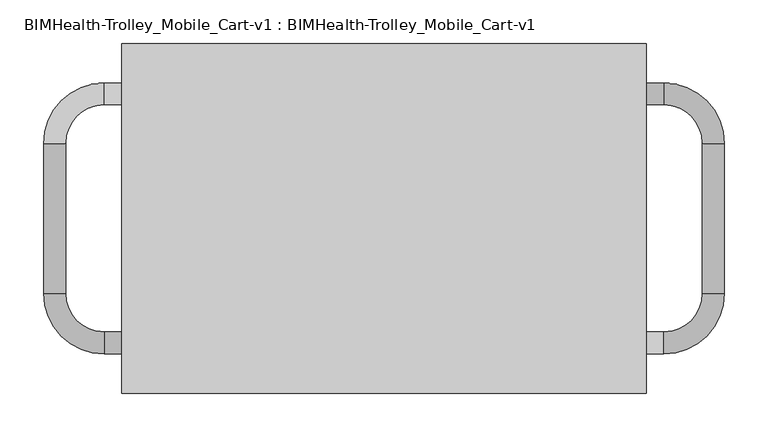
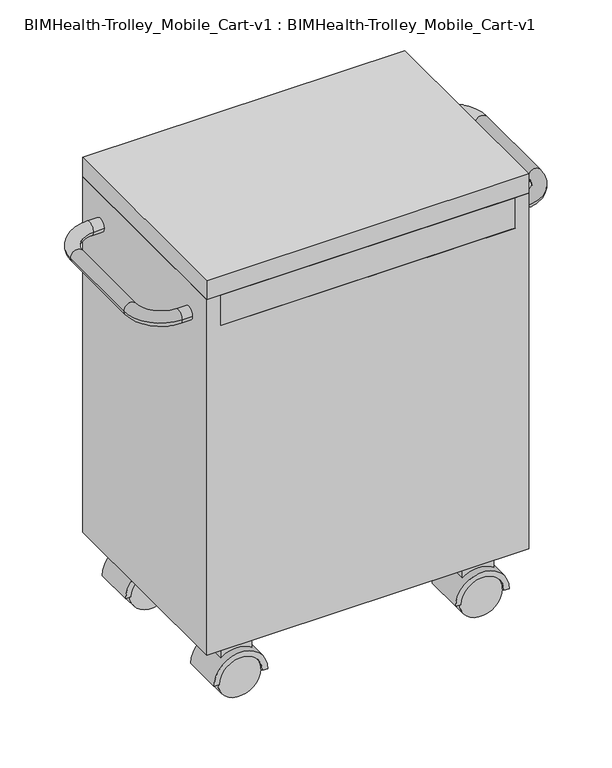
"""IFC4 building model written with IfcOpenShell, lengths in millimetres: proxy geometry, BIMHealth-Trolley_Mobile_Cart-v1 : BIMHealth-Trolley_Mobile_Cart-v1."""

from ifc_helpers import new_model, si_unit, point, frame, frame_2d, origin, place, context, project, spatial, polyline, circle_curve, ellipse_curve, trimmed, segment, composite_curve, outline, extrude, faceted_brep, source, transform, mapped, element, save
from ifc_brep_helpers import plane_surface, cylinder_surface, revolved_surface, advanced_brep


def bimhealth_trolley_mobile_cart_v1_bimhealth_trolley_mobile_f11bc73b(model_context):
    return source(origin(), model_context, "Body", "SolidModel", [
        extrude(outline(composite_curve([segment(trimmed(circle_curve(frame_2d((225.0, -342.7936384)), 7.5), [point((225.0, -350.2936384))], [point((225.0, -335.2936384))], False, "CARTESIAN"), True, "CONTINUOUS"), segment(trimmed(circle_curve(frame_2d((225.0, -342.7936384)), 7.5), [point((225.0, -335.2936384))], [point((225.0, -350.2936384))], False, "CARTESIAN"), True, "CONTINUOUS")], self_intersect=False)), frame((0.0, 0.0, 102.2775188), z_axis=(0.0, 0.0, 1.0), x_axis=(1.0, 0.0, 0.0)), (0.0, 0.0, 1.0), 20.0),
        extrude(outline(composite_curve([segment(polyline([(102.2775188, 195.7435995), (80.5470471, 195.7435995)]), True, "CONTINUOUS"), segment(trimmed(circle_curve(frame_2d((40.0, 225.0)), 50.0), [point((80.5470471, 195.7435995))], [point((80.5470471, 254.2564005))], True, "CARTESIAN"), True, "CONTINUOUS"), segment(polyline([(80.5470471, 254.2564005), (102.2775188, 254.2564005), (102.2775188, 195.7435995)]), True, "CONTINUOUS")], self_intersect=False)), frame((0.0, -365.4193021, 0.0), z_axis=(0.0, 1.0, 0.0), x_axis=(0.0, 0.0, 1.0)), (0.0, 0.0, 1.0), 45.2513275),
        extrude(outline(composite_curve([segment(trimmed(circle_curve(frame_2d((40.0, 225.0)), 40.0), [point((40.0, 185.0))], [point((40.0, 265.0))], True, "CARTESIAN"), True, "CONTINUOUS"), segment(polyline([(40.0, 265.0), (40.0, 275.0)]), True, "CONTINUOUS"), segment(trimmed(circle_curve(frame_2d((40.0, 225.0)), 50.0), [point((40.0, 275.0))], [point((40.0, 175.0))], False, "CARTESIAN"), True, "CONTINUOUS"), segment(polyline([(40.0, 175.0), (40.0, 185.0)]), True, "CONTINUOUS")], self_intersect=False)), frame((0.0, -380.0, 0.0), z_axis=(0.0, 1.0, 0.0), x_axis=(0.0, 0.0, 1.0)), (0.0, 0.0, 1.0), 75.0),
        extrude(outline(composite_curve([segment(trimmed(circle_curve(frame_2d((40.0, 225.0)), 40.0), [point((40.0, 265.0))], [point((40.0, 185.0))], False, "CARTESIAN"), True, "CONTINUOUS"), segment(trimmed(circle_curve(frame_2d((40.0, 225.0)), 40.0), [point((40.0, 185.0))], [point((40.0, 265.0))], False, "CARTESIAN"), True, "CONTINUOUS")], self_intersect=False)), frame((0.0, -330.0, 0.0), z_axis=(0.0, 1.0, 0.0), x_axis=(0.0, 0.0, 1.0)), (0.0, 0.0, 1.0), 20.0),
        extrude(outline(composite_curve([segment(trimmed(circle_curve(frame_2d((40.0, 225.0)), 40.0), [point((40.0, 265.0))], [point((40.0, 185.0))], False, "CARTESIAN"), True, "CONTINUOUS"), segment(trimmed(circle_curve(frame_2d((40.0, 225.0)), 40.0), [point((40.0, 185.0))], [point((40.0, 265.0))], False, "CARTESIAN"), True, "CONTINUOUS")], self_intersect=False)), frame((0.0, -375.0, 0.0), z_axis=(0.0, 1.0, 0.0), x_axis=(0.0, 0.0, 1.0)), (0.0, 0.0, 1.0), 20.0),
        extrude(outline(composite_curve([segment(trimmed(circle_curve(frame_2d((225.0, -57.7936384)), 7.5), [point((225.0, -65.2936384))], [point((225.0, -50.2936384))], False, "CARTESIAN"), True, "CONTINUOUS"), segment(trimmed(circle_curve(frame_2d((225.0, -57.7936384)), 7.5), [point((225.0, -50.2936384))], [point((225.0, -65.2936384))], False, "CARTESIAN"), True, "CONTINUOUS")], self_intersect=False)), frame((0.0, 0.0, 102.2775188), z_axis=(0.0, 0.0, 1.0), x_axis=(1.0, 0.0, 0.0)), (0.0, 0.0, 1.0), 20.0),
        extrude(outline(composite_curve([segment(polyline([(102.2775188, 195.7435995), (80.5470471, 195.7435995)]), True, "CONTINUOUS"), segment(trimmed(circle_curve(frame_2d((40.0, 225.0)), 50.0), [point((80.5470471, 195.7435995))], [point((80.5470471, 254.2564005))], True, "CARTESIAN"), True, "CONTINUOUS"), segment(polyline([(80.5470471, 254.2564005), (102.2775188, 254.2564005), (102.2775188, 195.7435995)]), True, "CONTINUOUS")], self_intersect=False)), frame((0.0, -80.4193021, 0.0), z_axis=(0.0, 1.0, 0.0), x_axis=(0.0, 0.0, 1.0)), (0.0, 0.0, 1.0), 45.2513275),
        extrude(outline(composite_curve([segment(trimmed(circle_curve(frame_2d((40.0, 225.0)), 40.0), [point((40.0, 185.0))], [point((40.0, 265.0))], True, "CARTESIAN"), True, "CONTINUOUS"), segment(polyline([(40.0, 265.0), (40.0, 275.0)]), True, "CONTINUOUS"), segment(trimmed(circle_curve(frame_2d((40.0, 225.0)), 50.0), [point((40.0, 275.0))], [point((40.0, 175.0))], False, "CARTESIAN"), True, "CONTINUOUS"), segment(polyline([(40.0, 175.0), (40.0, 185.0)]), True, "CONTINUOUS")], self_intersect=False)), frame((0.0, -95.0, 0.0), z_axis=(0.0, 1.0, 0.0), x_axis=(0.0, 0.0, 1.0)), (0.0, 0.0, 1.0), 75.0),
        extrude(outline(composite_curve([segment(trimmed(circle_curve(frame_2d((40.0, 225.0)), 40.0), [point((40.0, 265.0))], [point((40.0, 185.0))], False, "CARTESIAN"), True, "CONTINUOUS"), segment(trimmed(circle_curve(frame_2d((40.0, 225.0)), 40.0), [point((40.0, 185.0))], [point((40.0, 265.0))], False, "CARTESIAN"), True, "CONTINUOUS")], self_intersect=False)), frame((0.0, -45.0, 0.0), z_axis=(0.0, 1.0, 0.0), x_axis=(0.0, 0.0, 1.0)), (0.0, 0.0, 1.0), 20.0),
        extrude(outline(composite_curve([segment(trimmed(circle_curve(frame_2d((40.0, 225.0)), 40.0), [point((40.0, 265.0))], [point((40.0, 185.0))], False, "CARTESIAN"), True, "CONTINUOUS"), segment(trimmed(circle_curve(frame_2d((40.0, 225.0)), 40.0), [point((40.0, 185.0))], [point((40.0, 265.0))], False, "CARTESIAN"), True, "CONTINUOUS")], self_intersect=False)), frame((0.0, -90.0, 0.0), z_axis=(0.0, 1.0, 0.0), x_axis=(0.0, 0.0, 1.0)), (0.0, 0.0, 1.0), 20.0),
        extrude(outline(composite_curve([segment(trimmed(circle_curve(frame_2d((-225.0, -342.7936384)), 7.5), [point((-225.0, -350.2936384))], [point((-225.0, -335.2936384))], False, "CARTESIAN"), True, "CONTINUOUS"), segment(trimmed(circle_curve(frame_2d((-225.0, -342.7936384)), 7.5), [point((-225.0, -335.2936384))], [point((-225.0, -350.2936384))], False, "CARTESIAN"), True, "CONTINUOUS")], self_intersect=False)), frame((0.0, 0.0, 102.2775188), z_axis=(0.0, 0.0, 1.0), x_axis=(1.0, 0.0, 0.0)), (0.0, 0.0, 1.0), 20.0),
        extrude(outline(composite_curve([segment(polyline([(102.2775188, -195.7435995), (102.2775188, -254.2564005), (80.5470471, -254.2564005)]), True, "CONTINUOUS"), segment(trimmed(circle_curve(frame_2d((40.0, -225.0)), 50.0), [point((80.5470471, -254.2564005))], [point((80.5470471, -195.7435995))], True, "CARTESIAN"), True, "CONTINUOUS"), segment(polyline([(80.5470471, -195.7435995), (102.2775188, -195.7435995)]), True, "CONTINUOUS")], self_intersect=False)), frame((0.0, -365.4193021, 0.0), z_axis=(0.0, 1.0, 0.0), x_axis=(0.0, 0.0, 1.0)), (0.0, 0.0, 1.0), 45.2513275),
        extrude(outline(composite_curve([segment(polyline([(40.0, -185.0), (40.0, -175.0)]), True, "CONTINUOUS"), segment(trimmed(circle_curve(frame_2d((40.0, -225.0)), 50.0), [point((40.0, -175.0))], [point((40.0, -275.0))], False, "CARTESIAN"), True, "CONTINUOUS"), segment(polyline([(40.0, -275.0), (40.0, -265.0)]), True, "CONTINUOUS"), segment(trimmed(circle_curve(frame_2d((40.0, -225.0)), 40.0), [point((40.0, -265.0))], [point((40.0, -185.0))], True, "CARTESIAN"), True, "CONTINUOUS")], self_intersect=False)), frame((0.0, -380.0, 0.0), z_axis=(0.0, 1.0, 0.0), x_axis=(0.0, 0.0, 1.0)), (0.0, 0.0, 1.0), 75.0),
        extrude(outline(composite_curve([segment(trimmed(circle_curve(frame_2d((40.0, -225.0)), 40.0), [point((40.0, -265.0))], [point((40.0, -185.0))], False, "CARTESIAN"), True, "CONTINUOUS"), segment(trimmed(circle_curve(frame_2d((40.0, -225.0)), 40.0), [point((40.0, -185.0))], [point((40.0, -265.0))], False, "CARTESIAN"), True, "CONTINUOUS")], self_intersect=False)), frame((0.0, -330.0, 0.0), z_axis=(0.0, 1.0, 0.0), x_axis=(0.0, 0.0, 1.0)), (0.0, 0.0, 1.0), 20.0),
        extrude(outline(composite_curve([segment(trimmed(circle_curve(frame_2d((40.0, -225.0)), 40.0), [point((40.0, -265.0))], [point((40.0, -185.0))], False, "CARTESIAN"), True, "CONTINUOUS"), segment(trimmed(circle_curve(frame_2d((40.0, -225.0)), 40.0), [point((40.0, -185.0))], [point((40.0, -265.0))], False, "CARTESIAN"), True, "CONTINUOUS")], self_intersect=False)), frame((0.0, -375.0, 0.0), z_axis=(0.0, 1.0, 0.0), x_axis=(0.0, 0.0, 1.0)), (0.0, 0.0, 1.0), 20.0),
        extrude(outline(composite_curve([segment(trimmed(circle_curve(frame_2d((-225.0, -57.7936384)), 7.5), [point((-225.0, -65.2936384))], [point((-225.0, -50.2936384))], False, "CARTESIAN"), True, "CONTINUOUS"), segment(trimmed(circle_curve(frame_2d((-225.0, -57.7936384)), 7.5), [point((-225.0, -50.2936384))], [point((-225.0, -65.2936384))], False, "CARTESIAN"), True, "CONTINUOUS")], self_intersect=False)), frame((0.0, 0.0, 102.2775188), z_axis=(0.0, 0.0, 1.0), x_axis=(1.0, 0.0, 0.0)), (0.0, 0.0, 1.0), 20.0),
        extrude(outline(composite_curve([segment(polyline([(102.2775188, -195.7435995), (102.2775188, -254.2564005), (80.5470471, -254.2564005)]), True, "CONTINUOUS"), segment(trimmed(circle_curve(frame_2d((40.0, -225.0)), 50.0), [point((80.5470471, -254.2564005))], [point((80.5470471, -195.7435995))], True, "CARTESIAN"), True, "CONTINUOUS"), segment(polyline([(80.5470471, -195.7435995), (102.2775188, -195.7435995)]), True, "CONTINUOUS")], self_intersect=False)), frame((0.0, -80.4193021, 0.0), z_axis=(0.0, 1.0, 0.0), x_axis=(0.0, 0.0, 1.0)), (0.0, 0.0, 1.0), 45.2513275),
        extrude(outline(composite_curve([segment(polyline([(40.0, -185.0), (40.0, -175.0)]), True, "CONTINUOUS"), segment(trimmed(circle_curve(frame_2d((40.0, -225.0)), 50.0), [point((40.0, -175.0))], [point((40.0, -275.0))], False, "CARTESIAN"), True, "CONTINUOUS"), segment(polyline([(40.0, -275.0), (40.0, -265.0)]), True, "CONTINUOUS"), segment(trimmed(circle_curve(frame_2d((40.0, -225.0)), 40.0), [point((40.0, -265.0))], [point((40.0, -185.0))], True, "CARTESIAN"), True, "CONTINUOUS")], self_intersect=False)), frame((0.0, -95.0, 0.0), z_axis=(0.0, 1.0, 0.0), x_axis=(0.0, 0.0, 1.0)), (0.0, 0.0, 1.0), 75.0),
        extrude(outline(composite_curve([segment(trimmed(circle_curve(frame_2d((40.0, -225.0)), 40.0), [point((40.0, -265.0))], [point((40.0, -185.0))], False, "CARTESIAN"), True, "CONTINUOUS"), segment(trimmed(circle_curve(frame_2d((40.0, -225.0)), 40.0), [point((40.0, -185.0))], [point((40.0, -265.0))], False, "CARTESIAN"), True, "CONTINUOUS")], self_intersect=False)), frame((0.0, -45.0, 0.0), z_axis=(0.0, 1.0, 0.0), x_axis=(0.0, 0.0, 1.0)), (0.0, 0.0, 1.0), 20.0),
        extrude(outline(composite_curve([segment(trimmed(circle_curve(frame_2d((40.0, -225.0)), 40.0), [point((40.0, -265.0))], [point((40.0, -185.0))], False, "CARTESIAN"), True, "CONTINUOUS"), segment(trimmed(circle_curve(frame_2d((40.0, -225.0)), 40.0), [point((40.0, -185.0))], [point((40.0, -265.0))], False, "CARTESIAN"), True, "CONTINUOUS")], self_intersect=False)), frame((0.0, -90.0, 0.0), z_axis=(0.0, 1.0, 0.0), x_axis=(0.0, 0.0, 1.0)), (0.0, 0.0, 1.0), 20.0),
        faceted_brep([(275.0, -400.0, 762.2775188), (-275.0, -400.0, 762.2775188), (-275.0, -400.0, 822.2775188), (-300.0, -400.0, 822.2775188), (-300.0, -400.0, 122.2775188), (300.0, -400.0, 122.2775188), (300.0, -400.0, 822.2775188), (275.0, -400.0, 822.2775188), (-275.0, -375.0, 762.2775188), (275.0, -375.0, 762.2775188), (275.0, -375.0, 497.2775188), (-275.0, -375.0, 497.2775188), (275.0, -375.0, 147.2775188), (-275.0, -375.0, 147.2775188), (-275.0, -375.0, 472.2775188), (275.0, -375.0, 472.2775188), (300.0, 0.0, 122.2775188), (-300.0, 0.0, 122.2775188), (-300.0, 0.0, 822.2775188), (-275.0, 0.0, 822.2775188), (-275.0, 0.0, 497.2775188), (275.0, 0.0, 497.2775188), (275.0, 0.0, 822.2775188), (300.0, 0.0, 822.2775188), (275.0, 0.0, 147.2775188), (275.0, 0.0, 472.2775188), (-275.0, 0.0, 472.2775188), (-275.0, 0.0, 147.2775188)], [[[0, 1, 2, 3, 4, 5, 6, 7]], [[8, 9, 10, 11]], [[12, 13, 14, 15]], [[1, 0, 9, 8]], [[16, 17, 18, 19, 20, 21, 22, 23], [24, 25, 26, 27]], [[6, 5, 16, 23]], [[7, 6, 23, 22]], [[22, 21, 10, 9, 0, 7]], [[21, 20, 11, 10]], [[20, 19, 2, 1, 8, 11]], [[3, 2, 19, 18]], [[4, 3, 18, 17]], [[5, 4, 17, 16]], [[24, 27, 13, 12]], [[27, 26, 14, 13]], [[26, 25, 15, 14]], [[25, 24, 12, 15]]]),
        extrude(outline(polyline([(147.2775188, 0.0), (147.2775188, 275.0), (472.2775188, 275.0), (472.2775188, 0.0), (147.2775188, 0.0)]), holes=[polyline([(392.6155382, 50.0), (392.6155382, 75.0), (234.7775188, 75.0), (234.7775188, 50.0), (392.6155382, 50.0)])]), frame((0.0, -25.0, 0.0), z_axis=(0.0, 1.0, 0.0), x_axis=(0.0, 0.0, 1.0)), (0.0, 0.0, 1.0), 25.0),
        extrude(outline(polyline([(147.2775188, 0.0), (472.2775188, 0.0), (472.2775188, -275.0), (147.2775188, -275.0), (147.2775188, 0.0)]), holes=[polyline([(392.6155382, -50.0), (234.7775188, -50.0), (234.7775188, -75.0), (392.6155382, -75.0), (392.6155382, -50.0)])]), frame((0.0, -25.0, 0.0), z_axis=(0.0, 1.0, 0.0), x_axis=(0.0, 0.0, 1.0)), (0.0, 0.0, 1.0), 25.0),
        extrude(outline(polyline([(762.2775188, -275.0), (647.2775188, -275.0), (647.2775188, 275.0), (762.2775188, 275.0), (762.2775188, -275.0)]), holes=[polyline([(712.2775188, -75.0), (712.2775188, 75.0), (687.2775188, 75.0), (687.2775188, -75.0), (712.2775188, -75.0)])]), frame((0.0, -25.0, 0.0), z_axis=(0.0, 1.0, 0.0), x_axis=(0.0, 0.0, 1.0)), (0.0, 0.0, 1.0), 25.0),
        extrude(outline(polyline([(647.2775188, -275.0), (497.2775188, -275.0), (497.2775188, 275.0), (647.2775188, 275.0), (647.2775188, -275.0)]), holes=[polyline([(597.2775188, -75.0), (597.2775188, 75.0), (572.2775188, 75.0), (572.2775188, -75.0), (597.2775188, -75.0)])]), frame((0.0, -25.0, 0.0), z_axis=(0.0, 1.0, 0.0), x_axis=(0.0, 0.0, 1.0)), (0.0, 0.0, 1.0), 25.0),
        advanced_brep(
        [(-300.0, -70.0, 762.5), (-300.0, -45.0, 762.5), (-320.0, -45.0, 762.5), (-320.0, -70.0, 762.5), (-364.0685425, -114.0685425, 762.5), (-389.0685425, -114.0685425, 762.5), (-389.0685425, -285.9314575, 762.5), (-364.0685425, -285.9314575, 762.5), (-320.0, -330.0, 762.5), (-320.0, -355.0, 762.5), (-300.0, -330.0, 762.5), (-300.0, -355.0, 762.5)],
        [
            (0, 1, circle_curve(frame((-300.0, -57.5, 762.5), z_axis=(1.0, 0.0, 0.0), x_axis=(0.0, 1.0, 0.0)), 12.5)),
            (1, 0, circle_curve(frame((-300.0, -57.5, 762.5), z_axis=(1.0, 0.0, 0.0), x_axis=(0.0, 1.0, 0.0)), 12.5)),
            (1, 2),
            (2, 3, circle_curve(frame((-320.0, -57.5, 762.5), z_axis=(1.0, 0.0, 0.0), x_axis=(0.0, 1.0, 0.0)), 12.5)),
            (3, 0),
            (3, 2, circle_curve(frame((-320.0, -57.5, 762.5), z_axis=(1.0, 0.0, 0.0), x_axis=(0.0, 1.0, 0.0)), 12.5)),
            (4, 3, circle_curve(frame((-320.0, -114.0685425, 762.5), z_axis=(0.0, 0.0, -1.0), x_axis=(0.0, 1.0, 0.0)), 44.0685425)),
            (2, 5, circle_curve(frame((-320.0, -114.0685425, 762.5), z_axis=(0.0, 0.0, 1.0), x_axis=(0.0, 1.0, 0.0)), 69.0685425)),
            (5, 4, circle_curve(frame((-376.5685425, -114.0685425, 762.5), z_axis=(0.0, 1.0, 0.0), x_axis=(-1.0, 0.0, 0.0)), 12.5)),
            (4, 5, circle_curve(frame((-376.5685425, -114.0685425, 762.5), z_axis=(0.0, 1.0, 0.0), x_axis=(-1.0, 0.0, 0.0)), 12.5)),
            (5, 6),
            (6, 7, circle_curve(frame((-376.5685425, -285.9314575, 762.5), z_axis=(0.0, 1.0, 0.0), x_axis=(-1.0, 0.0, 0.0)), 12.5)),
            (7, 4),
            (7, 6, circle_curve(frame((-376.5685425, -285.9314575, 762.5), z_axis=(0.0, 1.0, 0.0), x_axis=(-1.0, 0.0, 0.0)), 12.5)),
            (8, 7, circle_curve(frame((-320.0, -285.9314575, 762.5), z_axis=(0.0, 0.0, -1.0), x_axis=(-1.0, 0.0, 0.0)), 44.0685425)),
            (6, 9, circle_curve(frame((-320.0, -285.9314575, 762.5), z_axis=(0.0, 0.0, 1.0), x_axis=(-1.0, 0.0, 0.0)), 69.0685425)),
            (9, 8, circle_curve(frame((-320.0, -342.5, 762.5), z_axis=(-1.0, 0.0, 0.0), x_axis=(0.0, -1.0, 0.0)), 12.5)),
            (8, 9, circle_curve(frame((-320.0, -342.5, 762.5), z_axis=(-1.0, 0.0, 0.0), x_axis=(0.0, -1.0, 0.0)), 12.5)),
            (10, 11, circle_curve(frame((-300.0, -342.5, 762.5), z_axis=(1.0, 0.0, 0.0), x_axis=(0.0, -1.0, 0.0)), 12.5)),
            (11, 10, circle_curve(frame((-300.0, -342.5, 762.5), z_axis=(1.0, 0.0, 0.0), x_axis=(0.0, -1.0, 0.0)), 12.5)),
            (9, 11),
            (10, 8),
        ],
        [
            plane_surface(frame((-300.0, -57.5, 762.5), z_axis=(1.0, 0.0, 0.0), x_axis=(0.0, 0.0, 1.0))),
            cylinder_surface(frame((-300.0, -57.5, 762.5), z_axis=(1.0, 0.0, 0.0), x_axis=(0.0, 1.0, 0.0)), 12.5),
            revolved_surface(trimmed(ellipse_curve(frame((-320.0, -57.5, 762.5), z_axis=(1.0, 0.0, 0.0), x_axis=(0.0, 1.0, 0.0)), 12.5, 12.5), [point((-320.0, -45.0, 762.5))], [point((-320.0, -70.0, 762.5))], True, "CARTESIAN"), (-320.0, -114.0685425, 762.5), (0.0, 0.0, 1.0)),
            revolved_surface(trimmed(ellipse_curve(frame((-320.0, -57.5, 762.5), z_axis=(1.0, 0.0, 0.0), x_axis=(0.0, 1.0, 0.0)), 12.5, 12.5), [point((-320.0, -70.0, 762.5))], [point((-320.0, -45.0, 762.5))], True, "CARTESIAN"), (-320.0, -114.0685425, 762.5), (0.0, 0.0, 1.0)),
            cylinder_surface(frame((-376.5685425, -114.0685425, 762.5), z_axis=(0.0, 1.0, 0.0), x_axis=(-1.0, 0.0, 0.0)), 12.5),
            revolved_surface(trimmed(ellipse_curve(frame((-376.5685425, -285.9314575, 762.5), z_axis=(0.0, 1.0, 0.0), x_axis=(-1.0, 0.0, 0.0)), 12.5, 12.5), [point((-389.0685425, -285.9314575, 762.5))], [point((-364.0685425, -285.9314575, 762.5))], True, "CARTESIAN"), (-320.0, -285.9314575, 762.5), (0.0, 0.0, 1.0)),
            revolved_surface(trimmed(ellipse_curve(frame((-376.5685425, -285.9314575, 762.5), z_axis=(0.0, 1.0, 0.0), x_axis=(-1.0, 0.0, 0.0)), 12.5, 12.5), [point((-364.0685425, -285.9314575, 762.5))], [point((-389.0685425, -285.9314575, 762.5))], True, "CARTESIAN"), (-320.0, -285.9314575, 762.5), (0.0, 0.0, 1.0)),
            plane_surface(frame((-300.0, -342.5, 762.5), z_axis=(1.0, 0.0, 0.0), x_axis=(0.0, 0.0, 1.0))),
            cylinder_surface(frame((-320.0, -342.5, 762.5), z_axis=(-1.0, 0.0, 0.0), x_axis=(0.0, -1.0, 0.0)), 12.5),
        ],
        [
            (0, [[1, 2]]),
            (1, [[-2, 3, 4, 5]]),
            (1, [[-1, -5, 6, -3]]),
            (2, [[7, -4, 8, 9]]),
            (3, [[-8, -6, -7, 10]]),
            (4, [[-9, 11, 12, 13]]),
            (4, [[-10, -13, 14, -11]]),
            (5, [[15, -12, 16, 17]]),
            (6, [[-16, -14, -15, 18]]),
            (7, [[19, 20]]),
            (8, [[-17, 21, -19, 22]]),
            (8, [[-18, -22, -20, -21]]),
        ],
    ),
        advanced_brep(
        [(300.0, -70.0, 762.5), (300.0, -45.0, 762.5), (320.0, -70.0, 762.5), (320.0, -45.0, 762.5), (389.0685425, -114.0685425, 762.5), (364.0685425, -114.0685425, 762.5), (364.0685425, -285.9314575, 762.5), (389.0685425, -285.9314575, 762.5), (320.0, -355.0, 762.5), (320.0, -330.0, 762.5), (300.0, -330.0, 762.5), (300.0, -355.0, 762.5)],
        [
            (0, 1, circle_curve(frame((300.0, -57.5, 762.5), z_axis=(-1.0, 0.0, 0.0), x_axis=(0.0, 1.0, 0.0)), 12.5)),
            (1, 0, circle_curve(frame((300.0, -57.5, 762.5), z_axis=(-1.0, 0.0, 0.0), x_axis=(0.0, 1.0, 0.0)), 12.5)),
            (0, 2),
            (2, 3, circle_curve(frame((320.0, -57.5, 762.5), z_axis=(-1.0, 0.0, 0.0), x_axis=(0.0, 1.0, 0.0)), 12.5)),
            (3, 1),
            (3, 2, circle_curve(frame((320.0, -57.5, 762.5), z_axis=(-1.0, 0.0, 0.0), x_axis=(0.0, 1.0, 0.0)), 12.5)),
            (4, 3, circle_curve(frame((320.0, -114.0685425, 762.5), z_axis=(0.0, 0.0, 1.0), x_axis=(0.0, 1.0, 0.0)), 69.0685425)),
            (2, 5, circle_curve(frame((320.0, -114.0685425, 762.5), z_axis=(0.0, 0.0, -1.0), x_axis=(0.0, 1.0, 0.0)), 44.0685425)),
            (5, 4, circle_curve(frame((376.5685425, -114.0685425, 762.5), z_axis=(0.0, 1.0, 0.0), x_axis=(1.0, 0.0, 0.0)), 12.5)),
            (4, 5, circle_curve(frame((376.5685425, -114.0685425, 762.5), z_axis=(0.0, 1.0, 0.0), x_axis=(1.0, 0.0, 0.0)), 12.5)),
            (5, 6),
            (6, 7, circle_curve(frame((376.5685425, -285.9314575, 762.5), z_axis=(0.0, 1.0, 0.0), x_axis=(1.0, 0.0, 0.0)), 12.5)),
            (7, 4),
            (7, 6, circle_curve(frame((376.5685425, -285.9314575, 762.5), z_axis=(0.0, 1.0, 0.0), x_axis=(1.0, 0.0, 0.0)), 12.5)),
            (8, 7, circle_curve(frame((320.0, -285.9314575, 762.5), z_axis=(0.0, 0.0, 1.0), x_axis=(1.0, 0.0, 0.0)), 69.0685425)),
            (6, 9, circle_curve(frame((320.0, -285.9314575, 762.5), z_axis=(0.0, 0.0, -1.0), x_axis=(1.0, 0.0, 0.0)), 44.0685425)),
            (9, 8, circle_curve(frame((320.0, -342.5, 762.5), z_axis=(1.0, 0.0, 0.0), x_axis=(0.0, -1.0, 0.0)), 12.5)),
            (8, 9, circle_curve(frame((320.0, -342.5, 762.5), z_axis=(1.0, 0.0, 0.0), x_axis=(0.0, -1.0, 0.0)), 12.5)),
            (10, 11, circle_curve(frame((300.0, -342.5, 762.5), z_axis=(-1.0, 0.0, 0.0), x_axis=(0.0, -1.0, 0.0)), 12.5)),
            (11, 10, circle_curve(frame((300.0, -342.5, 762.5), z_axis=(-1.0, 0.0, 0.0), x_axis=(0.0, -1.0, 0.0)), 12.5)),
            (9, 10),
            (11, 8),
        ],
        [
            plane_surface(frame((300.0, -57.5, 762.5), z_axis=(-1.0, 0.0, 0.0), x_axis=(0.0, 0.0, 1.0))),
            cylinder_surface(frame((300.0, -57.5, 762.5), z_axis=(-1.0, 0.0, 0.0), x_axis=(0.0, 1.0, 0.0)), 12.5),
            revolved_surface(trimmed(ellipse_curve(frame((320.0, -57.5, 762.5), z_axis=(-1.0, 0.0, 0.0), x_axis=(0.0, 1.0, 0.0)), 12.5, 12.5), [point((320.0, -70.0, 762.5))], [point((320.0, -45.0, 762.5))], True, "CARTESIAN"), (320.0, -114.0685425, 762.5), (0.0, 0.0, -1.0)),
            revolved_surface(trimmed(ellipse_curve(frame((320.0, -57.5, 762.5), z_axis=(-1.0, 0.0, 0.0), x_axis=(0.0, 1.0, 0.0)), 12.5, 12.5), [point((320.0, -45.0, 762.5))], [point((320.0, -70.0, 762.5))], True, "CARTESIAN"), (320.0, -114.0685425, 762.5), (0.0, 0.0, -1.0)),
            cylinder_surface(frame((376.5685425, -114.0685425, 762.5), z_axis=(0.0, 1.0, 0.0), x_axis=(1.0, 0.0, 0.0)), 12.5),
            revolved_surface(trimmed(ellipse_curve(frame((376.5685425, -285.9314575, 762.5), z_axis=(0.0, 1.0, 0.0), x_axis=(1.0, 0.0, 0.0)), 12.5, 12.5), [point((364.0685425, -285.9314575, 762.5))], [point((389.0685425, -285.9314575, 762.5))], True, "CARTESIAN"), (320.0, -285.9314575, 762.5), (0.0, 0.0, -1.0)),
            revolved_surface(trimmed(ellipse_curve(frame((376.5685425, -285.9314575, 762.5), z_axis=(0.0, 1.0, 0.0), x_axis=(1.0, 0.0, 0.0)), 12.5, 12.5), [point((389.0685425, -285.9314575, 762.5))], [point((364.0685425, -285.9314575, 762.5))], True, "CARTESIAN"), (320.0, -285.9314575, 762.5), (0.0, 0.0, -1.0)),
            plane_surface(frame((300.0, -342.5, 762.5), z_axis=(-1.0, 0.0, 0.0), x_axis=(0.0, 0.0, 1.0))),
            cylinder_surface(frame((320.0, -342.5, 762.5), z_axis=(1.0, 0.0, 0.0), x_axis=(0.0, -1.0, 0.0)), 12.5),
        ],
        [
            (0, [[1, 2]]),
            (1, [[-1, 3, 4, 5]]),
            (1, [[-2, -5, 6, -3]]),
            (2, [[7, -4, 8, 9]]),
            (3, [[-8, -6, -7, 10]]),
            (4, [[-9, 11, 12, 13]]),
            (4, [[-10, -13, 14, -11]]),
            (5, [[15, -12, 16, 17]]),
            (6, [[-16, -14, -15, 18]]),
            (7, [[19, 20]]),
            (8, [[-17, 21, -20, 22]]),
            (8, [[-18, -22, -19, -21]]),
        ],
    ),
        extrude(outline(polyline([(275.0, 0.0), (275.0, -400.0), (-275.0, -400.0), (-275.0, 0.0), (275.0, 0.0)])), frame((0.0, 0.0, 762.2775188), z_axis=(0.0, 0.0, 1.0), x_axis=(1.0, 0.0, 0.0)), (0.0, 0.0, 1.0), 60.0),
        extrude(outline(polyline([(300.0, 0.0), (300.0, -400.0), (-300.0, -400.0), (-300.0, 0.0), (300.0, 0.0)])), frame((0.0, 0.0, 822.2775188), z_axis=(0.0, 0.0, 1.0), x_axis=(1.0, 0.0, 0.0)), (0.0, 0.0, 1.0), 37.7224812),
    ])


if __name__ == "__main__":
    model = new_model("IFC4")
    model_context = context("Model", 3, world=origin())
    ifc_project = project(units=[si_unit("LENGTHUNIT", "METRE", prefix="MILLI")], contexts=[model_context])
    site = spatial("IfcSite", under=ifc_project)
    building = spatial("IfcBuilding", under=site)
    placement = place(None, origin())
    bimhealth_trolley_mobile_cart_v1_bimhealth_trolley_mobile_shape = bimhealth_trolley_mobile_cart_v1_bimhealth_trolley_mobile_f11bc73b(model_context)
    element("IfcBuildingElementProxy", 1, Name="BIMHealth-Trolley_Mobile_Cart-v1 : BIMHealth-Trolley_Mobile_Cart-v1", ObjectType="BIMHealth-Trolley_Mobile_Cart-v1 : BIMHealth-Trolley_Mobile_Cart-v1", at=placement, inside=building, context=model_context, shape_type="MappedRepresentation", body=[
        mapped(bimhealth_trolley_mobile_cart_v1_bimhealth_trolley_mobile_shape, transform((0.0, 0.0, 0.0), x_axis=(1.0, 0.0, 0.0), y_axis=(0.0, 1.0, 0.0), z_axis=(0.0, 0.0, 1.0))),
    ])
    save(model, "model.ifc")
